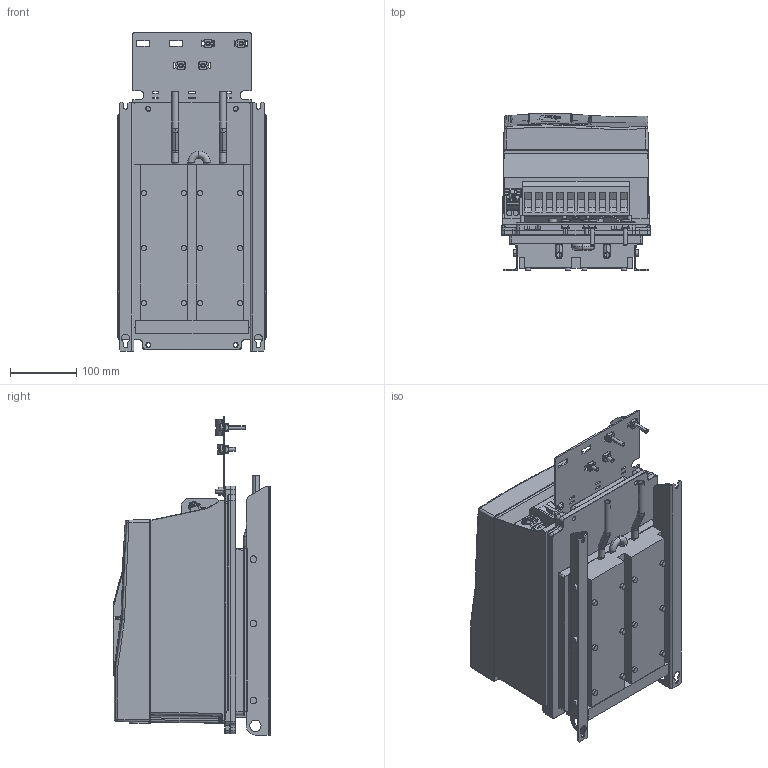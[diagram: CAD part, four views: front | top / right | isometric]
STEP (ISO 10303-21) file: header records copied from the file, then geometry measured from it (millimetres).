
FILE_DESCRIPTION (( 'STEP AP214' ), '1' );
FILE_NAME ('F6-4TW0-P151.STEP', '2020-12-09T12:44:39', ( '' ), ( '' ), 'SwSTEP 2.0', 'SolidWorks 2019', '' );
FILE_SCHEMA (( 'AUTOMOTIVE_DESIGN' ));
Length unit declared in the file: millimetre
Products named in the file (14): 10045828_000_Basis Leistungsteil + Zubeh”r TW0 (Kundenmodell); 10032600_000_Kundenmodell; 10001537_000; 10061791_000; 10061644_000_Deckel (Kundenmodell); 10061645_000; F6-4TW0-P151; 10059765_000; 10059762_000_Kundenmodell mit Geberbuchsen; 10058448_000; 10051076_000_Kundenmodell; 10063070_000; 10059764_000_Blindabdeckung (Kundenmodell); 10044453_000_Schirmung (Kundenmodell)
Assembly tree (15 placements, depth 4):
  F6-4TW0-P151
    10045828_000_Basis Leistungsteil + Zubeh”r TW0 (Kundenmodell)
      10061791_000
    10032600_000_Kundenmodell
      10061644_000_Deckel (Kundenmodell)
        10061645_000
      10001537_000  x3
      10058448_000
    10051076_000_Kundenmodell
      10059764_000_Blindabdeckung (Kundenmodell)
        10059765_000
      10059762_000_Kundenmodell mit Geberbuchsen
    10044453_000_Schirmung (Kundenmodell)
      10063070_000
Bounding box: 224 x 237.2 x 479.7 mm (x, y, z)
Volume: 14702115.8 mm3; surface area: 956126.1 mm2
Topology: 18 solids, 37 shells, 3540 faces, 9512 edges, 6084 vertices
Faces by surface type: plane 1616, cylinder 991, bspline 569, torus 172, cone 136, sphere 56
Entity records: 132628 total; most frequent: CARTESIAN_POINT 48697, ORIENTED_EDGE 18534, DIRECTION 15821, EDGE_CURVE 9267, VERTEX_POINT 5966, AXIS2_PLACEMENT_3D 5323, VECTOR 5175, LINE 5175
